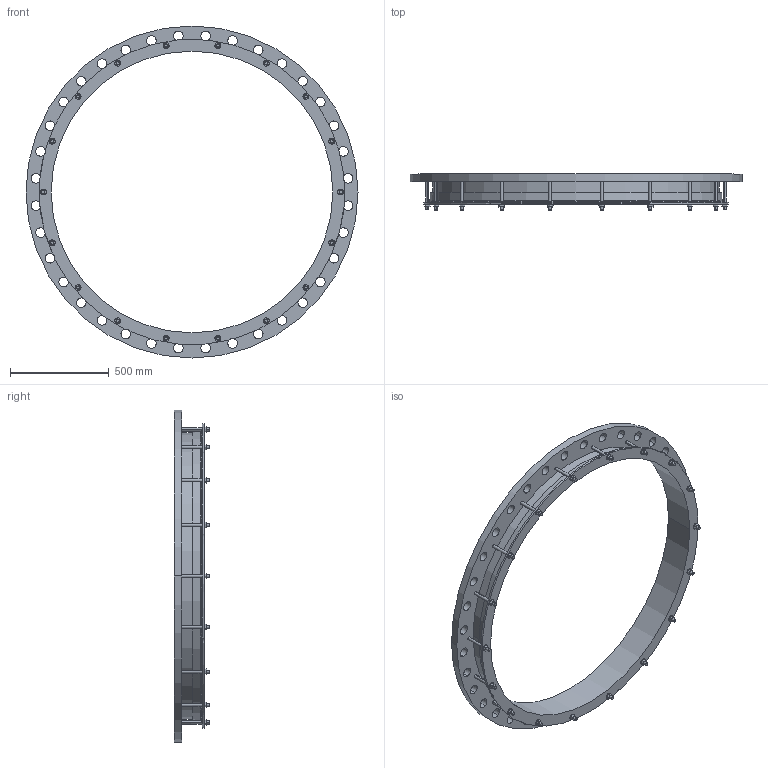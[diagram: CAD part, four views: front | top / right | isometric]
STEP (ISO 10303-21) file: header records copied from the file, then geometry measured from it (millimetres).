
FILE_DESCRIPTION((''),'2;1');
FILE_NAME('1426X1400PN16_9NOT','2019-01-17T',('mfairey'),('Glynwed Pipe Systems'),'CREO PARAMETRIC BY PTC INC, 2016130','CREO PARAMETRIC BY PTC INC, 2016130','');
FILE_SCHEMA(('CONFIG_CONTROL_DESIGN'));
Length unit declared in the file: millimetre
Products named in the file (1): 1426X1400PN16_9NOT
Bounding box: 1685 x 182 x 1685 mm (x, y, z)
Volume: 33383611.5 mm3; surface area: 3293552.4 mm2
Topology: 1 solids, 1 shells, 376 faces, 1006 edges, 670 vertices
Faces by surface type: cylinder 204, plane 166, cone 4, torus 2
Entity records: 13517 total; most frequent: CARTESIAN_POINT 3618, DIRECTION 2062, ORIENTED_EDGE 2012, EDGE_CURVE 1006, AXIS2_PLACEMENT_3D 765, VERTEX_POINT 670, VECTOR 532, LINE 532
